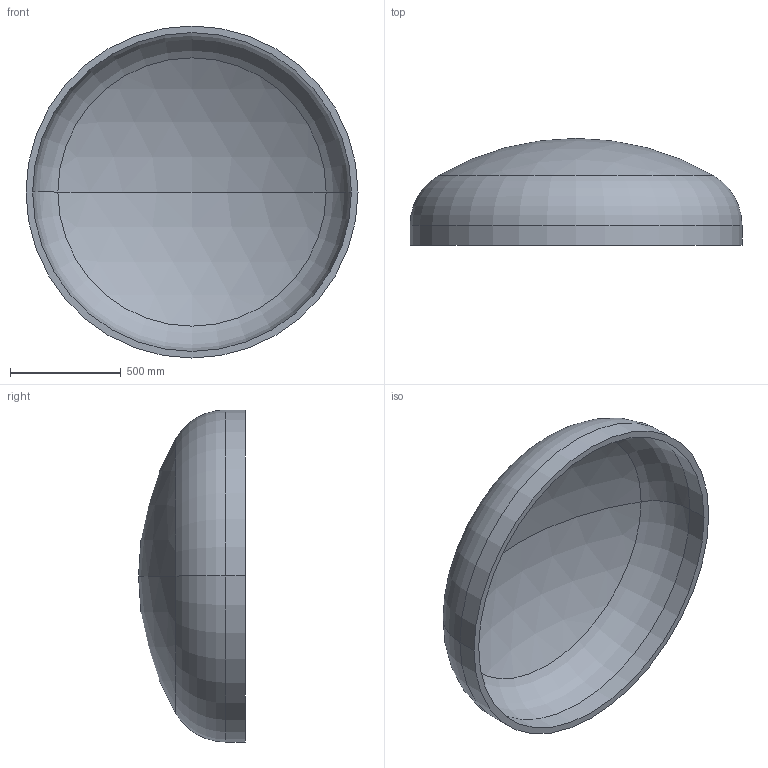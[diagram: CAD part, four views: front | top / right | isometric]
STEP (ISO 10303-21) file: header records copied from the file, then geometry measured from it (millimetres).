
FILE_DESCRIPTION (( 'STEP AP203' ), '1' );
FILE_NAME ('DIN 28013 Korbbogenform_-_Boden DIN 28013 - 1500 x 90 - I - s=30.step', '2016-07-01T10:42:16', ( '' ), ( '' ), 'SwSTEP 2.0', 'SolidWorks 2013', '' );
FILE_SCHEMA (( 'CONFIG_CONTROL_DESIGN' ));
Length unit declared in the file: millimetre
Products named in the file (1): DIN 28013 Korbbogenform_-_Boden DIN 28013 - 1500 x 90 - I - s=30
Bounding box: 1500 x 482.86 x 1500 mm (x, y, z)
Volume: 83923622.7 mm3; surface area: 5735335.6 mm2
Topology: 1 solids, 1 shells, 13 faces, 24 edges, 14 vertices
Faces by surface type: torus 4, cylinder 4, sphere 4, plane 1
Entity records: 407 total; most frequent: DIRECTION 72, CARTESIAN_POINT 52, ORIENTED_EDGE 48, AXIS2_PLACEMENT_3D 34, EDGE_CURVE 24, CIRCLE 20, EDGE_LOOP 14, VERTEX_POINT 14
